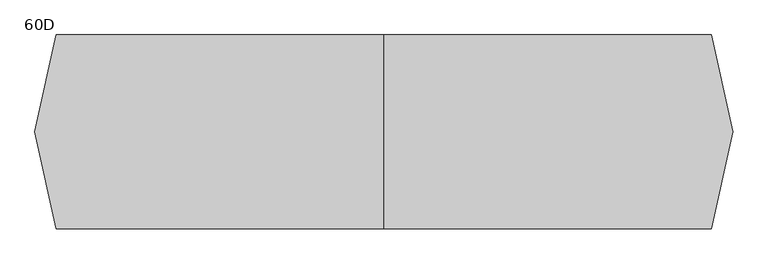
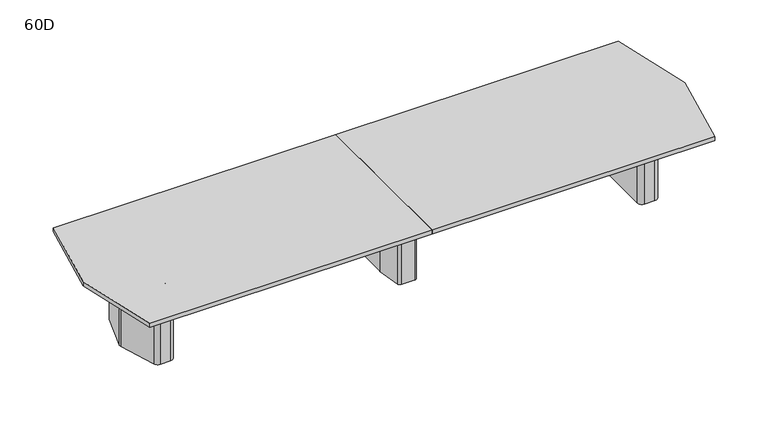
"""IFC4 building model written with IfcOpenShell, lengths in millimetres: furniture geometry, Coalesse_AM_Table_Conference_ETable2_Faceted_18ft_ThreeBase : 60D."""

from ifc_helpers import new_model, si_unit, point, frame, frame_2d, origin, origin_with_axes, place, context, project, spatial, polyline, circle_curve, trimmed, segment, composite_curve, outline, extrude, source, transform, mapped, element, save
from ifc_brep_helpers import plane_surface, cylinder_surface, revolved_surface, advanced_brep


def furniture_60d_b6e10d91(model_context):
    return source(origin(), model_context, "Body", "SolidModel", [
        advanced_brep(
        [(61.0357815, 381.0, 698.5), (-61.0357815, 381.0, 698.5), (-86.1885994, 359.1349332, 698.5), (-117.2278179, 138.2753661, 698.5), (-117.475, 134.740433, 698.5), (-117.475, -134.7404196, 698.5), (-117.2278463, -138.2751502, 698.5), (-86.1904395, -359.1347306, 698.5), (-61.0375932, -381.0, 698.5), (61.0375932, -381.0, 698.5), (86.1904395, -359.1347306, 698.5), (117.2278463, -138.2751502, 698.5), (117.475, -134.7404196, 698.5), (117.475, 134.740433, 698.5), (117.2278179, 138.2753661, 698.5), (86.1885994, 359.1349332, 698.5), (25.4, 314.325, 698.5), (50.8, 288.925, 698.5), (50.8, -288.925, 698.5), (25.4, -314.325, 698.5), (-25.4, -314.325, 698.5), (-50.8, -288.925, 698.5), (-50.8, 288.925, 698.5), (-25.4, 314.325, 698.5), (61.0357815, 381.0, 3.175), (86.1885994, 359.1349332, 3.175), (117.2278179, 138.2753661, 3.175), (117.475, 134.740433, 3.175), (117.475, -134.7404196, 3.175), (117.2278463, -138.2751502, 3.175), (86.1904395, -359.1347306, 3.175), (61.0375932, -381.0, 3.175), (-61.0375932, -381.0, 3.175), (-86.1904395, -359.1347306, 3.175), (-117.2278463, -138.2751502, 3.175), (-117.475, -134.7404196, 3.175), (-117.475, 134.740433, 3.175), (-117.2278179, 138.2753661, 3.175), (-86.1885994, 359.1349332, 3.175), (-61.0357815, 381.0, 3.175), (25.4, 327.025, 3.175), (-25.4, 327.025, 3.175), (-63.5, 288.925, 3.175), (-63.5, -288.925, 3.175), (-25.4, -327.025, 3.175), (25.4, -327.025, 3.175), (63.5, -288.925, 3.175), (63.5, 288.925, 3.175), (25.4, 314.325, 3.175), (50.8, 288.925, 3.175), (50.8, -288.925, 3.175), (25.4, -314.325, 3.175), (-25.4, -314.325, 3.175), (-50.8, -288.925, 3.175), (-50.8, 288.925, 3.175), (-25.4, 314.325, 3.175), (25.4, 327.025, 0.0), (63.5, 288.925, 0.0), (63.5, -288.925, 0.0), (25.4, -327.025, 0.0), (-25.4, -327.025, 0.0), (-63.5, -288.925, 0.0), (-63.5, 288.925, 0.0), (-25.4, 327.025, 0.0)],
        [
            (0, 1),
            (1, 2, circle_curve(frame((-61.0357815, 355.6, 698.5), z_axis=(0.0, 0.0, 1.0), x_axis=(1.0, 0.0, 0.0)), 25.4)),
            (2, 3),
            (3, 4, circle_curve(frame((-92.075, 134.740433, 698.5), z_axis=(0.0, 0.0, 1.0), x_axis=(1.0, 0.0, 0.0)), 25.4)),
            (4, 5),
            (5, 6, circle_curve(frame((-92.075, -134.7404196, 698.5), z_axis=(0.0, 0.0, 1.0), x_axis=(1.0, 0.0, 0.0)), 25.4)),
            (6, 7),
            (7, 8, circle_curve(frame((-61.0375932, -355.6, 698.5), z_axis=(0.0, 0.0, 1.0), x_axis=(1.0, 0.0, 0.0)), 25.4)),
            (8, 9),
            (9, 10, circle_curve(frame((61.0375932, -355.6, 698.5), z_axis=(0.0, 0.0, 1.0), x_axis=(1.0, 0.0, 0.0)), 25.4)),
            (10, 11),
            (11, 12, circle_curve(frame((92.075, -134.7404196, 698.5), z_axis=(0.0, 0.0, 1.0), x_axis=(1.0, 0.0, 0.0)), 25.4)),
            (12, 13),
            (13, 14, circle_curve(frame((92.075, 134.740433, 698.5), z_axis=(0.0, 0.0, 1.0), x_axis=(1.0, 0.0, 0.0)), 25.4)),
            (14, 15),
            (15, 0, circle_curve(frame((61.0357815, 355.6, 698.5), z_axis=(0.0, 0.0, 1.0), x_axis=(1.0, 0.0, 0.0)), 25.4)),
            (16, 17, circle_curve(frame((25.4, 288.925, 698.5), z_axis=(0.0, 0.0, -1.0), x_axis=(1.0, 0.0, 0.0)), 25.4)),
            (17, 18),
            (18, 19, circle_curve(frame((25.4, -288.925, 698.5), z_axis=(0.0, 0.0, -1.0), x_axis=(1.0, 0.0, 0.0)), 25.4)),
            (19, 20),
            (20, 21, circle_curve(frame((-25.4, -288.925, 698.5), z_axis=(0.0, 0.0, -1.0), x_axis=(1.0, 0.0, 0.0)), 25.4)),
            (21, 22),
            (22, 23, circle_curve(frame((-25.4, 288.925, 698.5), z_axis=(0.0, 0.0, -1.0), x_axis=(1.0, 0.0, 0.0)), 25.4)),
            (23, 16),
            (24, 25, circle_curve(frame((61.0357815, 355.6, 3.175), z_axis=(0.0, 0.0, -1.0), x_axis=(1.0, 0.0, 0.0)), 25.4)),
            (25, 26),
            (26, 27, circle_curve(frame((92.075, 134.740433, 3.175), z_axis=(0.0, 0.0, -1.0), x_axis=(1.0, 0.0, 0.0)), 25.4)),
            (27, 28),
            (28, 29, circle_curve(frame((92.075, -134.7404196, 3.175), z_axis=(0.0, 0.0, -1.0), x_axis=(1.0, 0.0, 0.0)), 25.4)),
            (29, 30),
            (30, 31, circle_curve(frame((61.0375932, -355.6, 3.175), z_axis=(0.0, 0.0, -1.0), x_axis=(1.0, 0.0, 0.0)), 25.4)),
            (31, 32),
            (32, 33, circle_curve(frame((-61.0375932, -355.6, 3.175), z_axis=(0.0, 0.0, -1.0), x_axis=(1.0, 0.0, 0.0)), 25.4)),
            (33, 34),
            (34, 35, circle_curve(frame((-92.075, -134.7404196, 3.175), z_axis=(0.0, 0.0, -1.0), x_axis=(1.0, 0.0, 0.0)), 25.4)),
            (35, 36),
            (36, 37, circle_curve(frame((-92.075, 134.740433, 3.175), z_axis=(0.0, 0.0, -1.0), x_axis=(1.0, 0.0, 0.0)), 25.4)),
            (37, 38),
            (38, 39, circle_curve(frame((-61.0357815, 355.6, 3.175), z_axis=(0.0, 0.0, -1.0), x_axis=(1.0, 0.0, 0.0)), 25.4)),
            (39, 24),
            (40, 41),
            (41, 42, circle_curve(frame((-25.4, 288.925, 3.175), z_axis=(0.0, 0.0, 1.0), x_axis=(1.0, 0.0, 0.0)), 38.1)),
            (42, 43),
            (43, 44, circle_curve(frame((-25.4, -288.925, 3.175), z_axis=(0.0, 0.0, 1.0), x_axis=(1.0, 0.0, 0.0)), 38.1)),
            (44, 45),
            (45, 46, circle_curve(frame((25.4, -288.925, 3.175), z_axis=(0.0, 0.0, 1.0), x_axis=(1.0, 0.0, 0.0)), 38.1)),
            (46, 47),
            (47, 40, circle_curve(frame((25.4, 288.925, 3.175), z_axis=(0.0, 0.0, 1.0), x_axis=(1.0, 0.0, 0.0)), 38.1)),
            (0, 24),
            (39, 1),
            (38, 2),
            (37, 3),
            (36, 4),
            (35, 5),
            (34, 6),
            (33, 7),
            (32, 8),
            (31, 9),
            (30, 10),
            (29, 11),
            (28, 12),
            (27, 13),
            (26, 14),
            (25, 15),
            (16, 48),
            (48, 49, circle_curve(frame((25.4, 288.925, 3.175), z_axis=(0.0, 0.0, -1.0), x_axis=(1.0, 0.0, 0.0)), 25.4)),
            (49, 17),
            (49, 50),
            (50, 18),
            (50, 51, circle_curve(frame((25.4, -288.925, 3.175), z_axis=(0.0, 0.0, -1.0), x_axis=(1.0, 0.0, 0.0)), 25.4)),
            (51, 19),
            (51, 52),
            (52, 20),
            (52, 53, circle_curve(frame((-25.4, -288.925, 3.175), z_axis=(0.0, 0.0, -1.0), x_axis=(1.0, 0.0, 0.0)), 25.4)),
            (53, 21),
            (53, 54),
            (54, 22),
            (54, 55, circle_curve(frame((-25.4, 288.925, 3.175), z_axis=(0.0, 0.0, -1.0), x_axis=(1.0, 0.0, 0.0)), 25.4)),
            (55, 23),
            (55, 48),
            (56, 57, circle_curve(frame((25.4, 288.925, 0.0), z_axis=(0.0, 0.0, -1.0), x_axis=(1.0, 0.0, 0.0)), 38.1)),
            (57, 58),
            (58, 59, circle_curve(frame((25.4, -288.925, 0.0), z_axis=(0.0, 0.0, -1.0), x_axis=(1.0, 0.0, 0.0)), 38.1)),
            (59, 60),
            (60, 61, circle_curve(frame((-25.4, -288.925, 0.0), z_axis=(0.0, 0.0, -1.0), x_axis=(1.0, 0.0, 0.0)), 38.1)),
            (61, 62),
            (62, 63, circle_curve(frame((-25.4, 288.925, 0.0), z_axis=(0.0, 0.0, -1.0), x_axis=(1.0, 0.0, 0.0)), 38.1)),
            (63, 56),
            (63, 41),
            (40, 56),
            (62, 42),
            (61, 43),
            (60, 44),
            (59, 45),
            (58, 46),
            (57, 47),
        ],
        [
            plane_surface(frame((-1524.0, 381.0, 698.5), z_axis=(0.0, 0.0, 1.0), x_axis=(-1.0, 0.0, 0.0))),
            plane_surface(frame((-1524.0, 381.0, 3.175), z_axis=(0.0, 0.0, -1.0), x_axis=(1.0, 0.0, 0.0))),
            plane_surface(frame((61.0357815, 381.0, 698.5), z_axis=(0.0, 1.0, 0.0), x_axis=(0.0, 0.0, -1.0))),
            cylinder_surface(frame((-61.0357815, 355.6, 3.175), z_axis=(0.0, 0.0, 1.0), x_axis=(1.0, 0.0, 0.0)), 25.4),
            plane_surface(frame((-86.1885994, 359.1349332, 698.5), z_axis=(-0.9902684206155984, 0.13917059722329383, 0.0), x_axis=(0.0, 0.0, -1.0))),
            cylinder_surface(frame((-92.075, 134.740433, 3.175), z_axis=(0.0, 0.0, 1.0), x_axis=(1.0, 0.0, 0.0)), 25.4),
            plane_surface(frame((-117.475, 134.740433, 698.5), z_axis=(-1.0, 0.0, 0.0), x_axis=(0.0, 0.0, -1.0))),
            cylinder_surface(frame((-92.075, -134.7404196, 3.175), z_axis=(0.0, 0.0, 1.0), x_axis=(1.0, 0.0, 0.0)), 25.4),
            plane_surface(frame((-117.2278463, -138.2751502, 698.5), z_axis=(-0.9902695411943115, -0.1391626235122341, 0.0), x_axis=(0.0, 0.0, -1.0))),
            cylinder_surface(frame((-61.0375932, -355.6, 3.175), z_axis=(0.0, 0.0, 1.0), x_axis=(1.0, 0.0, 0.0)), 25.4),
            plane_surface(frame((-61.0375932, -381.0, 698.5), z_axis=(0.0, -1.0, 0.0), x_axis=(0.0, 0.0, -1.0))),
            cylinder_surface(frame((61.0375932, -355.6, 3.175), z_axis=(0.0, 0.0, 1.0), x_axis=(1.0, 0.0, 0.0)), 25.4),
            plane_surface(frame((86.1904395, -359.1347306, 698.5), z_axis=(0.9902695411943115, -0.1391626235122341, 0.0), x_axis=(0.0, 0.0, -1.0))),
            cylinder_surface(frame((92.075, -134.7404196, 3.175), z_axis=(0.0, 0.0, 1.0), x_axis=(1.0, 0.0, 0.0)), 25.4),
            plane_surface(frame((117.475, -134.7404196, 698.5), z_axis=(1.0, 0.0, 0.0), x_axis=(0.0, 0.0, -1.0))),
            cylinder_surface(frame((92.075, 134.740433, 3.175), z_axis=(0.0, 0.0, 1.0), x_axis=(1.0, 0.0, 0.0)), 25.4),
            plane_surface(frame((117.2278179, 138.2753661, 698.5), z_axis=(0.9902684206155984, 0.13917059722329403, 0.0), x_axis=(0.0, 0.0, -1.0))),
            cylinder_surface(frame((61.0357815, 355.6, 3.175), z_axis=(0.0, 0.0, 1.0), x_axis=(1.0, 0.0, 0.0)), 25.4),
            revolved_surface(polyline([(50.8, 288.925, 3.175), (50.8, 288.925, 698.5)]), (25.4, 288.925, 0.0), (0.0, 0.0, -1.0)),
            plane_surface(frame((50.8, 288.925, 698.5), z_axis=(-1.0, 0.0, 0.0), x_axis=(0.0, 0.0, -1.0))),
            revolved_surface(polyline([(50.8, -288.925, 3.175), (50.8, -288.925, 698.5)]), (25.4, -288.925, 0.0), (0.0, 0.0, -1.0)),
            plane_surface(frame((25.4, -314.325, 698.5), z_axis=(0.0, 1.0, 0.0), x_axis=(0.0, 0.0, -1.0))),
            revolved_surface(polyline([(0.0, -288.925, 3.175), (0.0, -288.925, 698.5)]), (-25.4, -288.925, 0.0), (0.0, 0.0, -1.0)),
            plane_surface(frame((-50.8, -288.925, 698.5), z_axis=(1.0, 0.0, 0.0), x_axis=(0.0, 0.0, -1.0))),
            revolved_surface(polyline([(0.0, 288.925, 3.175), (0.0, 288.925, 698.5)]), (-25.4, 288.925, 0.0), (0.0, 0.0, -1.0)),
            plane_surface(frame((-25.4, 314.325, 698.5), z_axis=(0.0, -1.0, 0.0), x_axis=(0.0, 0.0, -1.0))),
            plane_surface(frame((-50.8, 327.025, 3.175), z_axis=(0.0, 0.0, 1.0), x_axis=(-1.0, 0.0, 0.0))),
            plane_surface(frame((-50.8, 327.025, 0.0), z_axis=(0.0, 0.0, -1.0), x_axis=(1.0, 0.0, 0.0))),
            plane_surface(frame((25.4, 327.025, 3.175), z_axis=(0.0, 1.0, 0.0), x_axis=(0.0, 0.0, -1.0))),
            cylinder_surface(frame((-25.4, 288.925, 0.0), z_axis=(0.0, 0.0, 1.0), x_axis=(1.0, 0.0, 0.0)), 38.1),
            plane_surface(frame((-63.5, 288.925, 3.175), z_axis=(-1.0, 0.0, 0.0), x_axis=(0.0, 0.0, -1.0))),
            cylinder_surface(frame((-25.4, -288.925, 0.0), z_axis=(0.0, 0.0, 1.0), x_axis=(1.0, 0.0, 0.0)), 38.1),
            plane_surface(frame((-25.4, -327.025, 3.175), z_axis=(0.0, -1.0, 0.0), x_axis=(0.0, 0.0, -1.0))),
            cylinder_surface(frame((25.4, -288.925, 0.0), z_axis=(0.0, 0.0, 1.0), x_axis=(1.0, 0.0, 0.0)), 38.1),
            plane_surface(frame((63.5, -288.925, 3.175), z_axis=(1.0, 0.0, 0.0), x_axis=(0.0, 0.0, -1.0))),
            cylinder_surface(frame((25.4, 288.925, 0.0), z_axis=(0.0, 0.0, 1.0), x_axis=(1.0, 0.0, 0.0)), 38.1),
        ],
        [
            (0, [[1, 2, 3, 4, 5, 6, 7, 8, 9, 10, 11, 12, 13, 14, 15, 16], [17, 18, 19, 20, 21, 22, 23, 24]]),
            (1, [[25, 26, 27, 28, 29, 30, 31, 32, 33, 34, 35, 36, 37, 38, 39, 40], [41, 42, 43, 44, 45, 46, 47, 48]]),
            (2, [[-1, 49, -40, 50]]),
            (3, [[-2, -50, -39, 51]]),
            (4, [[-3, -51, -38, 52]]),
            (5, [[-4, -52, -37, 53]]),
            (6, [[-5, -53, -36, 54]]),
            (7, [[-6, -54, -35, 55]]),
            (8, [[-7, -55, -34, 56]]),
            (9, [[-8, -56, -33, 57]]),
            (10, [[-9, -57, -32, 58]]),
            (11, [[-10, -58, -31, 59]]),
            (12, [[-11, -59, -30, 60]]),
            (13, [[-12, -60, -29, 61]]),
            (14, [[-13, -61, -28, 62]]),
            (15, [[-14, -62, -27, 63]]),
            (16, [[-15, -63, -26, 64]]),
            (17, [[-16, -64, -25, -49]]),
            (18, [[-17, 65, 66, 67]]),
            (19, [[-18, -67, 68, 69]]),
            (20, [[-19, -69, 70, 71]]),
            (21, [[-20, -71, 72, 73]]),
            (22, [[-21, -73, 74, 75]]),
            (23, [[-22, -75, 76, 77]]),
            (24, [[-23, -77, 78, 79]]),
            (25, [[-24, -79, 80, -65]]),
            (26, [[-66, -80, -78, -76, -74, -72, -70, -68]]),
            (27, [[81, 82, 83, 84, 85, 86, 87, 88]]),
            (28, [[-88, 89, -41, 90]]),
            (29, [[-87, 91, -42, -89]]),
            (30, [[-86, 92, -43, -91]]),
            (31, [[-85, 93, -44, -92]]),
            (32, [[-84, 94, -45, -93]]),
            (33, [[-83, 95, -46, -94]]),
            (34, [[-82, 96, -47, -95]]),
            (35, [[-81, -90, -48, -96]]),
        ],
    ),
        extrude(outline(composite_curve([segment(polyline([(2341.5625, 101.7236478), (2341.5625, -97.2761514)]), True, "CONTINUOUS"), segment(trimmed(circle_curve(frame_2d((2303.4625, -97.2761514)), 38.1), [point((2341.5625, -97.2761514))], [point((2339.7991129, -108.7330515))], False, "CARTESIAN"), True, "CONTINUOUS"), segment(polyline([(2339.7991129, -108.7330515), (2281.3745591, -294.0319001)]), True, "CONTINUOUS"), segment(trimmed(circle_curve(frame_2d((2245.0379462, -282.575)), 38.1), [point((2281.3745591, -294.0319001))], [point((2245.0379462, -320.675))], False, "CARTESIAN"), True, "CONTINUOUS"), segment(polyline([(2245.0379462, -320.675), (2178.05, -320.675)]), True, "CONTINUOUS"), segment(trimmed(circle_curve(frame_2d((2178.05, -282.575)), 38.1), [point((2178.05, -320.675))], [point((2139.95, -282.575))], False, "CARTESIAN"), True, "CONTINUOUS"), segment(polyline([(2139.95, -282.575), (2139.95, 282.575)]), True, "CONTINUOUS"), segment(trimmed(circle_curve(frame_2d((2178.05, 282.575)), 38.1), [point((2139.95, 282.575))], [point((2178.05, 320.675))], False, "CARTESIAN"), True, "CONTINUOUS"), segment(polyline([(2178.05, 320.675), (2248.7873998, 320.675)]), True, "CONTINUOUS"), segment(trimmed(circle_curve(frame_2d((2248.7873998, 282.575)), 38.1), [point((2248.7873998, 320.675))], [point((2285.2572049, 293.6005756))], False, "CARTESIAN"), True, "CONTINUOUS"), segment(polyline([(2285.2572049, 293.6005756), (2339.9323051, 112.7492234)]), True, "CONTINUOUS"), segment(trimmed(circle_curve(frame_2d((2303.4625, 101.7236478)), 38.1), [point((2339.9323051, 112.7492234))], [point((2341.5625, 101.7236478))], False, "CARTESIAN"), True, "CONTINUOUS")], self_intersect=False)), origin_with_axes(), (0.0, 0.0, 1.0), 3.175),
        extrude(outline(composite_curve([segment(polyline([(2162.175, 381.0), (2250.3221663, 381.0)]), True, "CONTINUOUS"), segment(trimmed(circle_curve(frame_2d((2250.3221663, 339.725)), 41.275), [point((2250.3221663, 381.0))], [point((2289.6868303, 352.1366418))], False, "CARTESIAN"), True, "CONTINUOUS"), segment(polyline([(2289.6868303, 352.1366418), (2396.8018053, 12.4116418)]), True, "CONTINUOUS"), segment(trimmed(circle_curve(frame_2d((2357.4371413, 0.0)), 41.275), [point((2396.8018053, 12.4116418))], [point((2396.8018053, -12.4116418))], False, "CARTESIAN"), True, "CONTINUOUS"), segment(polyline([(2396.8018053, -12.4116418), (2289.6868303, -352.1366418)]), True, "CONTINUOUS"), segment(trimmed(circle_curve(frame_2d((2250.3221663, -339.725)), 41.275), [point((2289.6868303, -352.1366418))], [point((2250.3221663, -381.0))], False, "CARTESIAN"), True, "CONTINUOUS"), segment(polyline([(2250.3221663, -381.0), (2155.825, -381.0)]), True, "CONTINUOUS"), segment(trimmed(circle_curve(frame_2d((2155.825, -339.725)), 41.275), [point((2155.825, -381.0))], [point((2114.55, -339.725))], False, "CARTESIAN"), True, "CONTINUOUS"), segment(polyline([(2114.55, -339.725), (2114.55, 333.375)]), True, "CONTINUOUS"), segment(trimmed(circle_curve(frame_2d((2162.175, 333.375)), 47.625), [point((2114.55, 333.375))], [point((2162.175, 381.0))], False, "CARTESIAN"), True, "CONTINUOUS")], self_intersect=False), holes=[composite_curve([segment(trimmed(circle_curve(frame_2d((2178.05, -282.575)), 25.4), [point((2152.65, -282.575))], [point((2178.05, -307.975))], True, "CARTESIAN"), True, "CONTINUOUS"), segment(polyline([(2178.05, -307.975), (2245.0379462, -307.975)]), True, "CONTINUOUS"), segment(trimmed(circle_curve(frame_2d((2245.0379462, -282.575)), 25.4), [point((2245.0379462, -307.975))], [point((2269.2623548, -290.2129334))], True, "CARTESIAN"), True, "CONTINUOUS"), segment(polyline([(2269.2623548, -290.2129334), (2327.6869086, -104.9140848)]), True, "CONTINUOUS"), segment(trimmed(circle_curve(frame_2d((2303.4625, -97.2761514)), 25.4), [point((2327.6869086, -104.9140848))], [point((2328.8625, -97.2761514))], True, "CARTESIAN"), True, "CONTINUOUS"), segment(polyline([(2328.8625, -97.2761514), (2328.8625, 101.7236478)]), True, "CONTINUOUS"), segment(trimmed(circle_curve(frame_2d((2303.4625, 101.7236478)), 25.4), [point((2328.8625, 101.7236478))], [point((2327.7757034, 109.0740316))], True, "CARTESIAN"), True, "CONTINUOUS"), segment(polyline([(2327.7757034, 109.0740316), (2273.1006032, 289.9253837)]), True, "CONTINUOUS"), segment(trimmed(circle_curve(frame_2d((2248.7873998, 282.575)), 25.4), [point((2273.1006032, 289.9253837))], [point((2248.7873998, 307.975))], True, "CARTESIAN"), True, "CONTINUOUS"), segment(polyline([(2248.7873998, 307.975), (2178.05, 307.975)]), True, "CONTINUOUS"), segment(trimmed(circle_curve(frame_2d((2178.05, 282.575)), 25.4), [point((2178.05, 307.975))], [point((2152.65, 282.575))], True, "CARTESIAN"), True, "CONTINUOUS"), segment(polyline([(2152.65, 282.575), (2152.65, -282.575)]), True, "CONTINUOUS")], self_intersect=False)]), frame((0.0, 0.0, 3.175), z_axis=(0.0, 0.0, 1.0), x_axis=(1.0, 0.0, 0.0)), (0.0, 0.0, 1.0), 695.325),
        extrude(outline(composite_curve([segment(trimmed(circle_curve(frame_2d((-2314.575, 101.7236478)), 38.1), [point((-2352.675, 101.7236478))], [point((-2351.0448051, 112.7492234))], False, "CARTESIAN"), True, "CONTINUOUS"), segment(polyline([(-2351.0448051, 112.7492234), (-2296.3697049, 293.6005756)]), True, "CONTINUOUS"), segment(trimmed(circle_curve(frame_2d((-2259.8998998, 282.575)), 38.1), [point((-2296.3697049, 293.6005756))], [point((-2259.8998998, 320.675))], False, "CARTESIAN"), True, "CONTINUOUS"), segment(polyline([(-2259.8998998, 320.675), (-2189.1625, 320.675)]), True, "CONTINUOUS"), segment(trimmed(circle_curve(frame_2d((-2189.1625, 282.575)), 38.1), [point((-2189.1625, 320.675))], [point((-2151.0625, 282.575))], False, "CARTESIAN"), True, "CONTINUOUS"), segment(polyline([(-2151.0625, 282.575), (-2151.0625, -282.575)]), True, "CONTINUOUS"), segment(trimmed(circle_curve(frame_2d((-2189.1625, -282.575)), 38.1), [point((-2151.0625, -282.575))], [point((-2189.1625, -320.675))], False, "CARTESIAN"), True, "CONTINUOUS"), segment(polyline([(-2189.1625, -320.675), (-2256.1504462, -320.675)]), True, "CONTINUOUS"), segment(trimmed(circle_curve(frame_2d((-2256.1504462, -282.575)), 38.1), [point((-2256.1504462, -320.675))], [point((-2292.4870591, -294.0319001))], False, "CARTESIAN"), True, "CONTINUOUS"), segment(polyline([(-2292.4870591, -294.0319001), (-2350.9116129, -108.7330515)]), True, "CONTINUOUS"), segment(trimmed(circle_curve(frame_2d((-2314.575, -97.2761514)), 38.1), [point((-2350.9116129, -108.7330515))], [point((-2352.675, -97.2761514))], False, "CARTESIAN"), True, "CONTINUOUS"), segment(polyline([(-2352.675, -97.2761514), (-2352.675, 101.7236478)]), True, "CONTINUOUS")], self_intersect=False)), origin_with_axes(), (0.0, 0.0, 1.0), 3.175),
        extrude(outline(composite_curve([segment(trimmed(circle_curve(frame_2d((-2173.2875, 333.375)), 47.625), [point((-2173.2875, 381.0))], [point((-2125.6625, 333.375))], False, "CARTESIAN"), True, "CONTINUOUS"), segment(polyline([(-2125.6625, 333.375), (-2125.6625, -339.725)]), True, "CONTINUOUS"), segment(trimmed(circle_curve(frame_2d((-2166.9375, -339.725)), 41.275), [point((-2125.6625, -339.725))], [point((-2166.9375, -381.0))], False, "CARTESIAN"), True, "CONTINUOUS"), segment(polyline([(-2166.9375, -381.0), (-2261.4346663, -381.0)]), True, "CONTINUOUS"), segment(trimmed(circle_curve(frame_2d((-2261.4346663, -339.725)), 41.275), [point((-2261.4346663, -381.0))], [point((-2300.7993303, -352.1366418))], False, "CARTESIAN"), True, "CONTINUOUS"), segment(polyline([(-2300.7993303, -352.1366418), (-2407.9143053, -12.4116418)]), True, "CONTINUOUS"), segment(trimmed(circle_curve(frame_2d((-2368.5496413, 0.0)), 41.275), [point((-2407.9143053, -12.4116418))], [point((-2407.9143053, 12.4116418))], False, "CARTESIAN"), True, "CONTINUOUS"), segment(polyline([(-2407.9143053, 12.4116418), (-2300.7993303, 352.1366418)]), True, "CONTINUOUS"), segment(trimmed(circle_curve(frame_2d((-2261.4346663, 339.725)), 41.275), [point((-2300.7993303, 352.1366418))], [point((-2261.4346663, 381.0))], False, "CARTESIAN"), True, "CONTINUOUS"), segment(polyline([(-2261.4346663, 381.0), (-2173.2875, 381.0)]), True, "CONTINUOUS")], self_intersect=False), holes=[composite_curve([segment(polyline([(-2163.7625, -282.575), (-2163.7625, 282.575)]), True, "CONTINUOUS"), segment(trimmed(circle_curve(frame_2d((-2189.1625, 282.575)), 25.4), [point((-2163.7625, 282.575))], [point((-2189.1625, 307.975))], True, "CARTESIAN"), True, "CONTINUOUS"), segment(polyline([(-2189.1625, 307.975), (-2259.8998998, 307.975)]), True, "CONTINUOUS"), segment(trimmed(circle_curve(frame_2d((-2259.8998998, 282.575)), 25.4), [point((-2259.8998998, 307.975))], [point((-2284.2131032, 289.9253837))], True, "CARTESIAN"), True, "CONTINUOUS"), segment(polyline([(-2284.2131032, 289.9253837), (-2338.8882034, 109.0740316)]), True, "CONTINUOUS"), segment(trimmed(circle_curve(frame_2d((-2314.575, 101.7236478)), 25.4), [point((-2338.8882034, 109.0740316))], [point((-2339.975, 101.7236478))], True, "CARTESIAN"), True, "CONTINUOUS"), segment(polyline([(-2339.975, 101.7236478), (-2339.975, -97.2761514)]), True, "CONTINUOUS"), segment(trimmed(circle_curve(frame_2d((-2314.575, -97.2761514)), 25.4), [point((-2339.975, -97.2761514))], [point((-2338.7994086, -104.9140848))], True, "CARTESIAN"), True, "CONTINUOUS"), segment(polyline([(-2338.7994086, -104.9140848), (-2280.3748548, -290.2129334)]), True, "CONTINUOUS"), segment(trimmed(circle_curve(frame_2d((-2256.1504462, -282.575)), 25.4), [point((-2280.3748548, -290.2129334))], [point((-2256.1504462, -307.975))], True, "CARTESIAN"), True, "CONTINUOUS"), segment(polyline([(-2256.1504462, -307.975), (-2189.1625, -307.975)]), True, "CONTINUOUS"), segment(trimmed(circle_curve(frame_2d((-2189.1625, -282.575)), 25.4), [point((-2189.1625, -307.975))], [point((-2163.7625, -282.575))], True, "CARTESIAN"), True, "CONTINUOUS")], self_intersect=False)]), frame((0.0, 0.0, 3.175), z_axis=(0.0, 0.0, 1.0), x_axis=(1.0, 0.0, 0.0)), (0.0, 0.0, 1.0), 695.325),
        extrude(outline(polyline([(2574.2677242, 762.0), (2743.2, 0.0), (2574.2677242, -762.0), (0.0, -762.0), (0.0, 762.0), (2574.2677242, 762.0)])), frame((0.0, 0.0, 698.5), z_axis=(0.0, 0.0, 1.0), x_axis=(1.0, 0.0, 0.0)), (0.0, 0.0, 1.0), 38.1),
        extrude(outline(polyline([(0.0, -762.0), (-2574.2677242, -762.0), (-2743.2, 0.0), (-2574.2677242, 762.0), (0.0, 762.0), (0.0, -762.0)])), frame((0.0, 0.0, 698.5), z_axis=(0.0, 0.0, 1.0), x_axis=(1.0, 0.0, 0.0)), (0.0, 0.0, 1.0), 38.1),
        extrude(outline(polyline([(96.8375, 698.5), (103.1875, 698.5), (103.1875, 476.25), (-103.1875, 476.25), (-103.1875, 698.5), (-96.8375, 698.5), (-96.8375, 482.6), (96.8375, 482.6), (96.8375, 698.5)])), frame((-2125.6625, 0.0, 0.0), z_axis=(1.0, 0.0, 0.0), x_axis=(0.0, 1.0, 0.0)), (0.0, 0.0, 1.0), 4240.2125),
    ])


if __name__ == "__main__":
    model = new_model("IFC4")
    model_context = context("Model", 3, world=origin())
    ifc_project = project(units=[si_unit("LENGTHUNIT", "METRE", prefix="MILLI")], contexts=[model_context])
    site = spatial("IfcSite", under=ifc_project)
    building = spatial("IfcBuilding", under=site)
    placement = place(None, origin())
    furniture_60d_shape = furniture_60d_b6e10d91(model_context)
    element("IfcFurniture", 1, ObjectType="Coalesse_AM_Table_Conference_ETable2_Faceted_18ft_ThreeBase : 60D", at=placement, inside=building, context=model_context, shape_type="MappedRepresentation", body=[
        mapped(furniture_60d_shape, transform((0.0, 0.0, 0.0), x_axis=(1.0, 0.0, 0.0), y_axis=(0.0, 1.0, 0.0), z_axis=(0.0, 0.0, 1.0))),
    ])
    save(model, "model.ifc")
